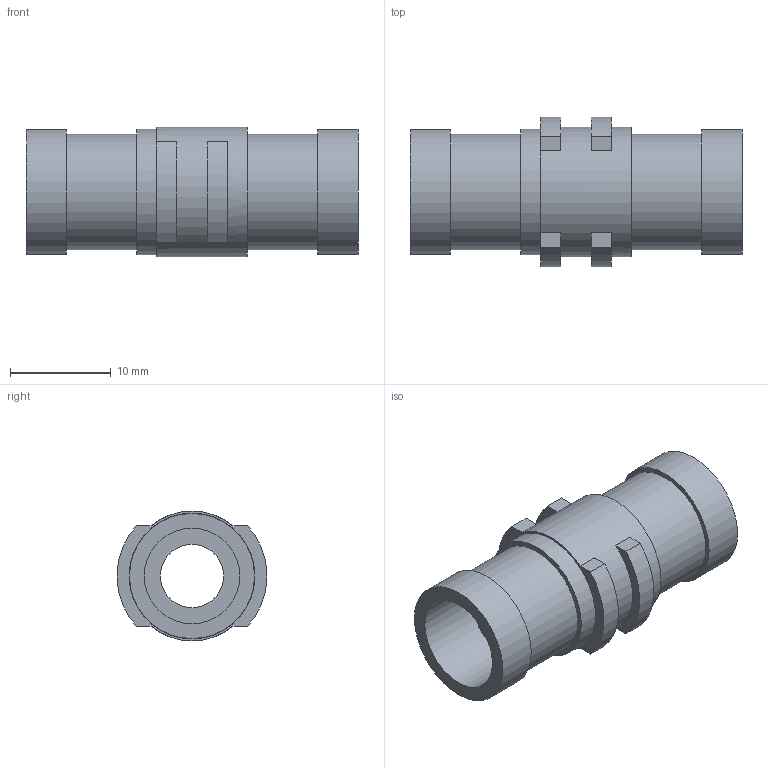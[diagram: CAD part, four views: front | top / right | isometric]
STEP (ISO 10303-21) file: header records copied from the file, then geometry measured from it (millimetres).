
FILE_DESCRIPTION( ( 'Unknown' ), '1' );
FILE_NAME( '//Sv02/01_社内情報/103_技術部/012_図面/図面/電子カタログ-3D/電子カタログ-3D元ファイル(par)/70_3D電子カタログ/01_U/インチ/70-9.5U-P.stp', 'Unknown', ( 'Unknown' ), ( 'Unknown' ), 'XStep 1.0', 'Unknown', ' ' );
FILE_SCHEMA( ( 'CONFIG_CONTROL_DESIGN' ) );
Length unit declared in the file: millimetre
Products named in the file (1): 1
Bounding box: 33 x 14.85 x 12.9 mm (x, y, z)
Volume: 2385.9 mm3; surface area: 2423.6 mm2
Topology: 1 solids, 1 shells, 36 faces, 75 edges, 50 vertices
Faces by surface type: plane 23, cylinder 13
Full cylindrical faces by diameter (mm): 6.3 x1, 9.5 x2, 11.48 x2, 12.43 x2, 12.5 x1, 12.9 x1
Entity records: 966 total; most frequent: DIRECTION 172, CARTESIAN_POINT 151, ORIENTED_EDGE 130, AXIS2_PLACEMENT_3D 70, EDGE_CURVE 65, EDGE_LOOP 56, VERTEX_POINT 49, FACE_OUTER_BOUND 45
